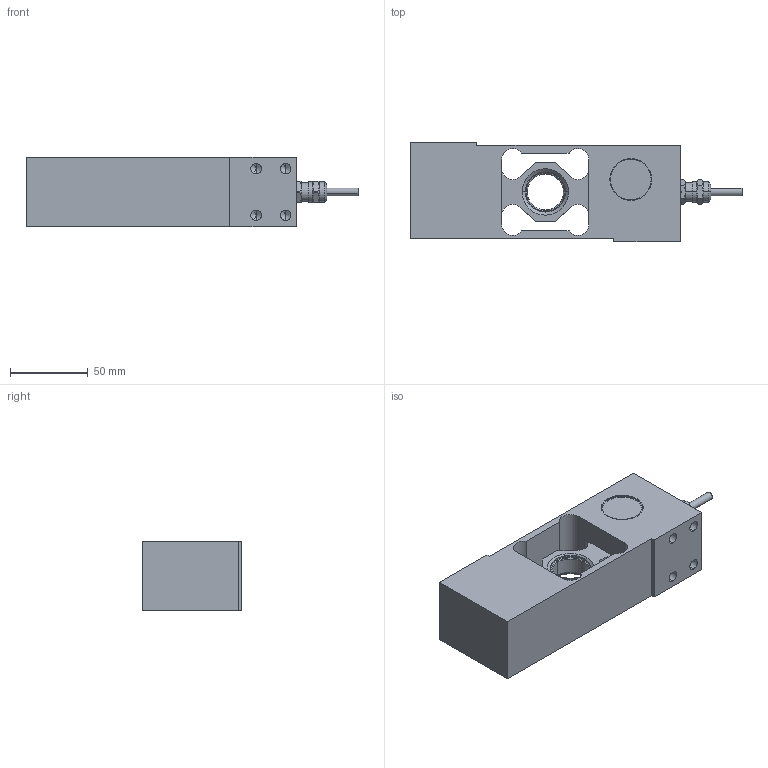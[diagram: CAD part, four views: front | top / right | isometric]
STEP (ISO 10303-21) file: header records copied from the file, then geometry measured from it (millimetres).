
FILE_DESCRIPTION (( 'STEP AP214' ), '1' );
FILE_NAME ('BM6G-200kg assy.STEP', '2012-06-11T14:14:30', ( 'gebruiker' ), ( '' ), 'SwSTEP 2.0', 'SolidWorks 2011', '' );
FILE_SCHEMA (( 'AUTOMOTIVE_DESIGN' ));
Length unit declared in the file: millimetre
Products named in the file (10): Cable 5mm diameter; Tube; BM6G cable gland assy; BM14G gland O-ring; BM14G Gland head; BM14G gland rubber; BM6G base parts; j-box cover high cap; Element 200kg; BM6G-200kg assy
Assembly tree (9 placements, depth 3):
  BM6G-200kg assy
    BM6G cable gland assy
      BM14G Gland head
      BM14G gland rubber
      BM14G gland O-ring
      BM6G base parts
    j-box cover high cap
    Element 200kg
    Tube
    Cable 5mm diameter
Bounding box: 213.5 x 64 x 45 mm (x, y, z)
Volume: 340918.4 mm3; surface area: 67051.9 mm2
Topology: 8 solids, 8 shells, 228 faces, 517 edges, 304 vertices
Faces by surface type: cylinder 88, plane 61, cone 47, torus 32
Entity records: 7218 total; most frequent: CARTESIAN_POINT 1378, DIRECTION 1204, ORIENTED_EDGE 1002, AXIS2_PLACEMENT_3D 502, EDGE_CURVE 501, VERTEX_POINT 304, CIRCLE 261, EDGE_LOOP 261
